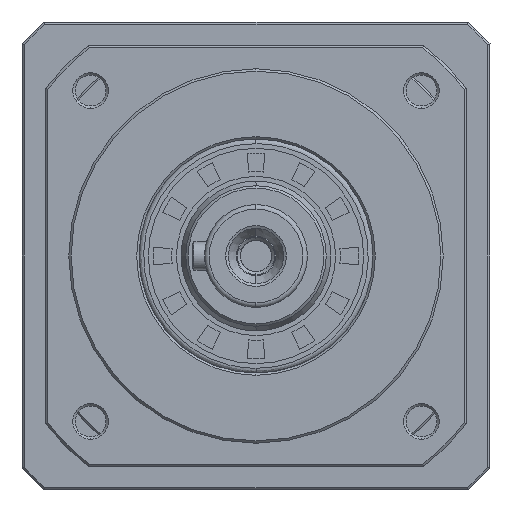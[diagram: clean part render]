
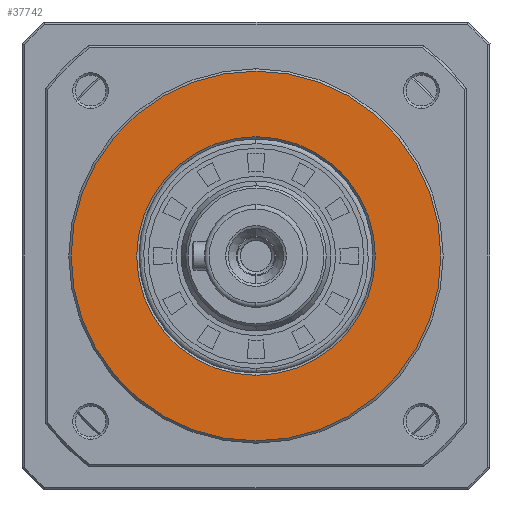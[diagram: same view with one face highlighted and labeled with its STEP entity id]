
A CAD part, left-side view. The second image highlights one B-rep face of the part: STEP entity #37742.
In plain terms, the highlighted planar face has unit normal (-1, 0, 0).
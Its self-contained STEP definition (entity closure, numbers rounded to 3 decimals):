
#2900 = DIRECTION ( 'NONE',  ( 0., 0., 1. ) ) ;
#3099 = ORIENTED_EDGE ( 'NONE', *, *, #11857, .F. ) ;
#10536 = EDGE_CURVE ( 'NONE', #21633, #32780, #15095, .T. ) ;
#11277 = ORIENTED_EDGE ( 'NONE', *, *, #55806, .T. ) ;
#11857 = EDGE_CURVE ( 'NONE', #64665, #81747, #17364, .T. ) ;
#12771 = ORIENTED_EDGE ( 'NONE', *, *, #10536, .T. ) ;
#14685 = EDGE_CURVE ( 'NONE', #81747, #64665, #47176, .T. ) ;
#15095 = CIRCLE ( 'NONE', #95260, 39.5 ) ;
#17364 = CIRCLE ( 'NONE', #86035, 25.5 ) ;
#18310 = CIRCLE ( 'NONE', #85394, 39.5 ) ;
#21633 = VERTEX_POINT ( 'NONE', #25481 ) ;
#23428 = EDGE_LOOP ( 'NONE', ( #80794, #3099 ) ) ;
#25120 = DIRECTION ( 'NONE',  ( -1., 0., 0. ) ) ;
#25481 = CARTESIAN_POINT ( 'NONE',  ( 0., 0., -39.5 ) ) ;
#26343 = EDGE_LOOP ( 'NONE', ( #12771, #11277 ) ) ;
#26917 = DIRECTION ( 'NONE',  ( 0., 0., -1. ) ) ;
#28339 = AXIS2_PLACEMENT_3D ( 'NONE', #54376, #39733, #2900 ) ;
#31291 = AXIS2_PLACEMENT_3D ( 'NONE', #64618, #48704, #26917 ) ;
#32270 = DIRECTION ( 'NONE',  ( 0., 0., -1. ) ) ;
#32780 = VERTEX_POINT ( 'NONE', #63247 ) ;
#37742 = ADVANCED_FACE ( 'NONE', ( #48679, #91559 ), #63979, .F. ) ;
#39733 = DIRECTION ( 'NONE',  ( -1., 0., 0. ) ) ;
#44208 = CARTESIAN_POINT ( 'NONE',  ( 0., 0., -25.5 ) ) ;
#47176 = CIRCLE ( 'NONE', #28339, 25.5 ) ;
#47194 = DIRECTION ( 'NONE',  ( -1., 0., 0. ) ) ;
#48679 = FACE_BOUND ( 'NONE', #23428, .T. ) ;
#48704 = DIRECTION ( 'NONE',  ( 1., 0., 0. ) ) ;
#54376 = CARTESIAN_POINT ( 'NONE',  ( 0., 0., 0. ) ) ;
#55806 = EDGE_CURVE ( 'NONE', #32780, #21633, #18310, .T. ) ;
#63247 = CARTESIAN_POINT ( 'NONE',  ( 0., 0., 39.5 ) ) ;
#63979 = PLANE ( 'NONE',  #31291 ) ;
#64618 = CARTESIAN_POINT ( 'NONE',  ( 0., -39.974, 39.974 ) ) ;
#64665 = VERTEX_POINT ( 'NONE', #44208 ) ;
#67269 = DIRECTION ( 'NONE',  ( 0., 0., -1. ) ) ;
#69613 = CARTESIAN_POINT ( 'NONE',  ( 0., 0., 0. ) ) ;
#77070 = DIRECTION ( 'NONE',  ( 0., 0., 1. ) ) ;
#80794 = ORIENTED_EDGE ( 'NONE', *, *, #14685, .F. ) ;
#81747 = VERTEX_POINT ( 'NONE', #88681 ) ;
#83872 = CARTESIAN_POINT ( 'NONE',  ( 0., 0., 0. ) ) ;
#85394 = AXIS2_PLACEMENT_3D ( 'NONE', #88632, #89561, #67269 ) ;
#86035 = AXIS2_PLACEMENT_3D ( 'NONE', #83872, #25120, #77070 ) ;
#88632 = CARTESIAN_POINT ( 'NONE',  ( 0., 0., 0. ) ) ;
#88681 = CARTESIAN_POINT ( 'NONE',  ( 0., 0., 25.5 ) ) ;
#89561 = DIRECTION ( 'NONE',  ( -1., 0., 0. ) ) ;
#91559 = FACE_OUTER_BOUND ( 'NONE', #26343, .T. ) ;
#95260 = AXIS2_PLACEMENT_3D ( 'NONE', #69613, #47194, #32270 ) ;
